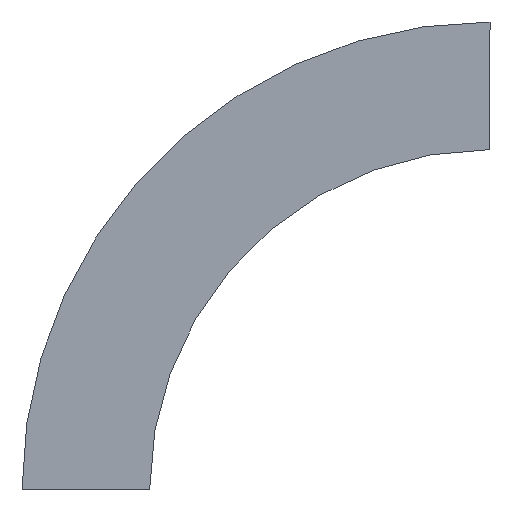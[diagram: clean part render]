
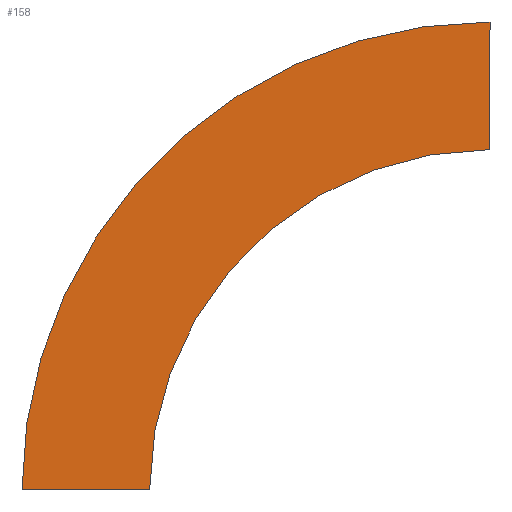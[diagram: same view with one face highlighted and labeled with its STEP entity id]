
A CAD part, left-side view. The second image highlights one B-rep face of the part: STEP entity #158.
In plain terms, the highlighted planar face has unit normal (-1, 0, 0) as drawn and (1, 0, 0) by its records, which use the part's own axes.
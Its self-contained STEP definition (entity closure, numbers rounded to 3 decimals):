
#8 = CARTESIAN_POINT ( 'NONE',  ( 0., -300., 300. ) ) ;
#21 = CARTESIAN_POINT ( 'NONE',  ( 0., -300., 300. ) ) ;
#43 = DIRECTION ( 'NONE',  ( 0., 0., -1. ) ) ;
#54 = AXIS2_PLACEMENT_3D ( 'NONE', #87, #450, #43 ) ;
#72 = FACE_OUTER_BOUND ( 'NONE', #147, .T. ) ;
#73 = CIRCLE ( 'NONE', #561, 412.5 ) ;
#87 = CARTESIAN_POINT ( 'NONE',  ( 0., 0., 0. ) ) ;
#92 = DIRECTION ( 'NONE',  ( 1., 0., 0. ) ) ;
#96 = DIRECTION ( 'NONE',  ( 0., 1., 0. ) ) ;
#115 = DIRECTION ( 'NONE',  ( 1., 0., 0. ) ) ;
#125 = EDGE_CURVE ( 'NONE', #305, #252, #73, .T. ) ;
#129 = CARTESIAN_POINT ( 'NONE',  ( 0., -300., 0. ) ) ;
#139 = ORIENTED_EDGE ( 'NONE', *, *, #125, .T. ) ;
#147 = EDGE_LOOP ( 'NONE', ( #139, #183, #340, #475 ) ) ;
#148 = CARTESIAN_POINT ( 'NONE',  ( 0., -300., 412.5 ) ) ;
#158 = ADVANCED_FACE ( 'NONE', ( #72 ), #309, .T. ) ;
#182 = VECTOR ( 'NONE', #96, 1000. ) ;
#183 = ORIENTED_EDGE ( 'NONE', *, *, #354, .F. ) ;
#187 = VERTEX_POINT ( 'NONE', #394 ) ;
#224 = EDGE_CURVE ( 'NONE', #187, #305, #500, .T. ) ;
#229 = LINE ( 'NONE', #8, #246 ) ;
#246 = VECTOR ( 'NONE', #512, 1000. ) ;
#252 = VERTEX_POINT ( 'NONE', #148 ) ;
#283 = CIRCLE ( 'NONE', #517, 300. ) ;
#305 = VERTEX_POINT ( 'NONE', #476 ) ;
#306 = DIRECTION ( 'NONE',  ( 0., 1., 0. ) ) ;
#307 = EDGE_CURVE ( 'NONE', #187, #446, #283, .T. ) ;
#309 = PLANE ( 'NONE',  #54 ) ;
#331 = CARTESIAN_POINT ( 'NONE',  ( 0., -300., 0. ) ) ;
#340 = ORIENTED_EDGE ( 'NONE', *, *, #307, .F. ) ;
#354 = EDGE_CURVE ( 'NONE', #446, #252, #229, .T. ) ;
#366 = CARTESIAN_POINT ( 'NONE',  ( 0., 0., 0. ) ) ;
#394 = CARTESIAN_POINT ( 'NONE',  ( 0., 0., 0. ) ) ;
#446 = VERTEX_POINT ( 'NONE', #21 ) ;
#450 = DIRECTION ( 'NONE',  ( 1., 0., 0. ) ) ;
#475 = ORIENTED_EDGE ( 'NONE', *, *, #224, .T. ) ;
#476 = CARTESIAN_POINT ( 'NONE',  ( 0., 112.5, 0. ) ) ;
#482 = DIRECTION ( 'NONE',  ( 0., 1., 0. ) ) ;
#500 = LINE ( 'NONE', #366, #182 ) ;
#512 = DIRECTION ( 'NONE',  ( 0., 0., 1. ) ) ;
#517 = AXIS2_PLACEMENT_3D ( 'NONE', #331, #115, #482 ) ;
#561 = AXIS2_PLACEMENT_3D ( 'NONE', #129, #92, #306 ) ;
